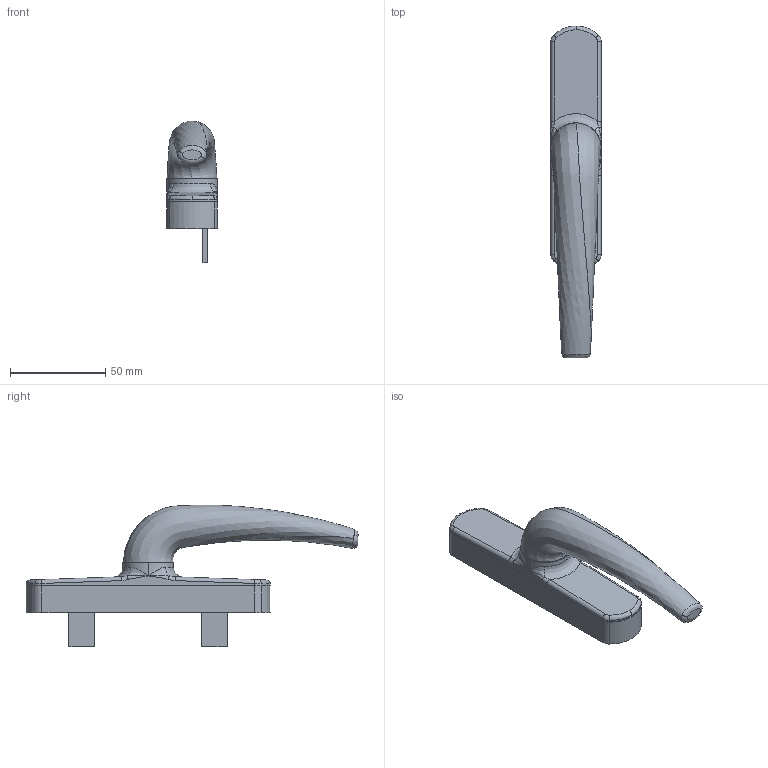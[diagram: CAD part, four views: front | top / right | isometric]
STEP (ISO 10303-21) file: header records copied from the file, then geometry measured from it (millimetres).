
FILE_DESCRIPTION (( 'STEP AP203' ), '1' );
FILE_NAME ('013.100.056.STEP', '2021-10-20T12:04:58', ( '' ), ( '' ), 'SwSTEP 2.0', 'SolidWorks 2018', '' );
FILE_SCHEMA (( 'CONFIG_CONTROL_DESIGN' ));
Length unit declared in the file: millimetre
Products named in the file (1): 013.100.056
Bounding box: 26.5 x 174 x 74.28 mm (x, y, z)
Volume: 99326.8 mm3; surface area: 21607.2 mm2
Topology: 3 solids, 3 shells, 114 faces, 281 edges, 172 vertices
Faces by surface type: plane 51, cylinder 37, bspline 26
Entity records: 5738 total; most frequent: CARTESIAN_POINT 3172, ORIENTED_EDGE 546, DIRECTION 481, EDGE_CURVE 273, VERTEX_POINT 172, AXIS2_PLACEMENT_3D 171, LINE 139, VECTOR 139
